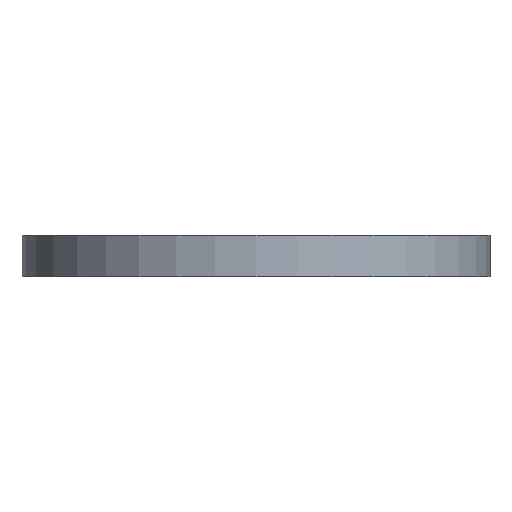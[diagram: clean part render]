
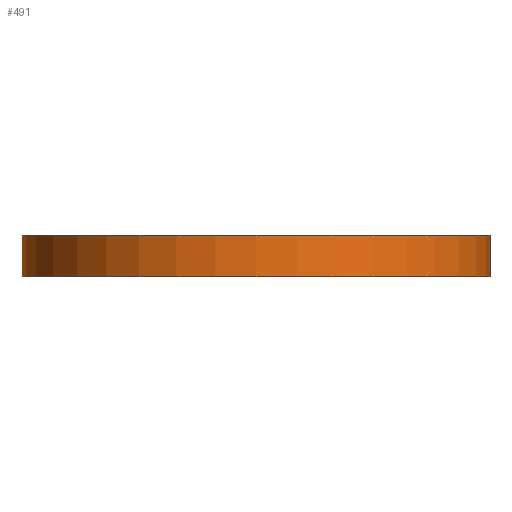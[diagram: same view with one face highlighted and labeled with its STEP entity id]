
A CAD part, front view. The second image highlights one B-rep face of the part: STEP entity #491.
In plain terms, the highlighted cylindrical face has radius 45 mm (diameter 90 mm), a partial arc.
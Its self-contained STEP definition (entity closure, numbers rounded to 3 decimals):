
#43 = EDGE_LOOP ( 'NONE', ( #108, #104, #103, #105 ) ) ;
#103 = ORIENTED_EDGE ( 'NONE', *, *, #554, .T. ) ;
#104 = ORIENTED_EDGE ( 'NONE', *, *, #563, .F. ) ;
#105 = ORIENTED_EDGE ( 'NONE', *, *, #569, .T. ) ;
#108 = ORIENTED_EDGE ( 'NONE', *, *, #551, .F. ) ;
#246 = VERTEX_POINT ( 'NONE', #991 ) ;
#247 = VERTEX_POINT ( 'NONE', #990 ) ;
#248 = VERTEX_POINT ( 'NONE', #989 ) ;
#249 = VERTEX_POINT ( 'NONE', #988 ) ;
#288 = FACE_OUTER_BOUND ( 'NONE', #43, .T. ) ;
#289 = CYLINDRICAL_SURFACE ( 'NONE', #411, 45. ) ;
#338 = LINE ( 'NONE', #756, #881 ) ;
#339 = LINE ( 'NONE', #764, #878 ) ;
#411 = AXIS2_PLACEMENT_3D ( 'NONE', #601, #602, #603 ) ;
#491 = ADVANCED_FACE ( 'NONE', ( #288 ), #289, .T. ) ;
#551 = EDGE_CURVE ( 'NONE', #249, #247, #338, .T. ) ;
#554 = EDGE_CURVE ( 'NONE', #248, #246, #339, .T. ) ;
#563 = EDGE_CURVE ( 'NONE', #248, #249, #856, .T. ) ;
#569 = EDGE_CURVE ( 'NONE', #246, #247, #849, .T. ) ;
#601 = CARTESIAN_POINT ( 'NONE',  ( 0., 0., 4. ) ) ;
#602 = DIRECTION ( 'NONE',  ( 0., 0., -1. ) ) ;
#603 = DIRECTION ( 'NONE',  ( -1., 0., 0. ) ) ;
#756 = CARTESIAN_POINT ( 'NONE',  ( 45., 0., 4. ) ) ;
#757 = DIRECTION ( 'NONE',  ( 0., 0., -1. ) ) ;
#764 = CARTESIAN_POINT ( 'NONE',  ( -45., 0., 4. ) ) ;
#765 = DIRECTION ( 'NONE',  ( 0., 0., -1. ) ) ;
#790 = CARTESIAN_POINT ( 'NONE',  ( 0., 0., 4. ) ) ;
#791 = DIRECTION ( 'NONE',  ( 0., 0., 1. ) ) ;
#792 = DIRECTION ( 'NONE',  ( 1., 0., 0. ) ) ;
#808 = CARTESIAN_POINT ( 'NONE',  ( 0., 0., -4. ) ) ;
#809 = DIRECTION ( 'NONE',  ( 0., 0., 1. ) ) ;
#810 = DIRECTION ( 'NONE',  ( 1., 0., 0. ) ) ;
#849 = CIRCLE ( 'NONE', #866, 45. ) ;
#856 = CIRCLE ( 'NONE', #880, 45. ) ;
#866 = AXIS2_PLACEMENT_3D ( 'NONE', #808, #809, #810 ) ;
#878 = VECTOR ( 'NONE', #765, 1000. ) ;
#880 = AXIS2_PLACEMENT_3D ( 'NONE', #790, #791, #792 ) ;
#881 = VECTOR ( 'NONE', #757, 1000. ) ;
#988 = CARTESIAN_POINT ( 'NONE',  ( 45., 0., 4. ) ) ;
#989 = CARTESIAN_POINT ( 'NONE',  ( -45., 0., 4. ) ) ;
#990 = CARTESIAN_POINT ( 'NONE',  ( 45., 0., -4. ) ) ;
#991 = CARTESIAN_POINT ( 'NONE',  ( -45., 0., -4. ) ) ;
